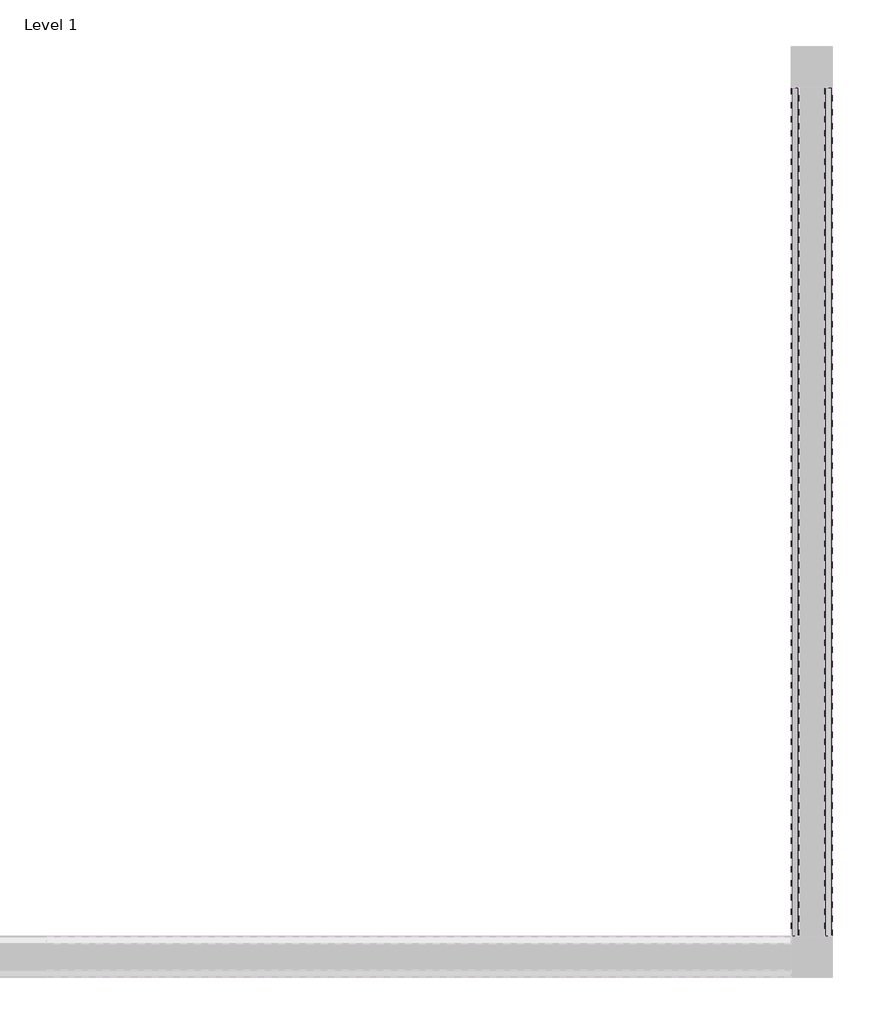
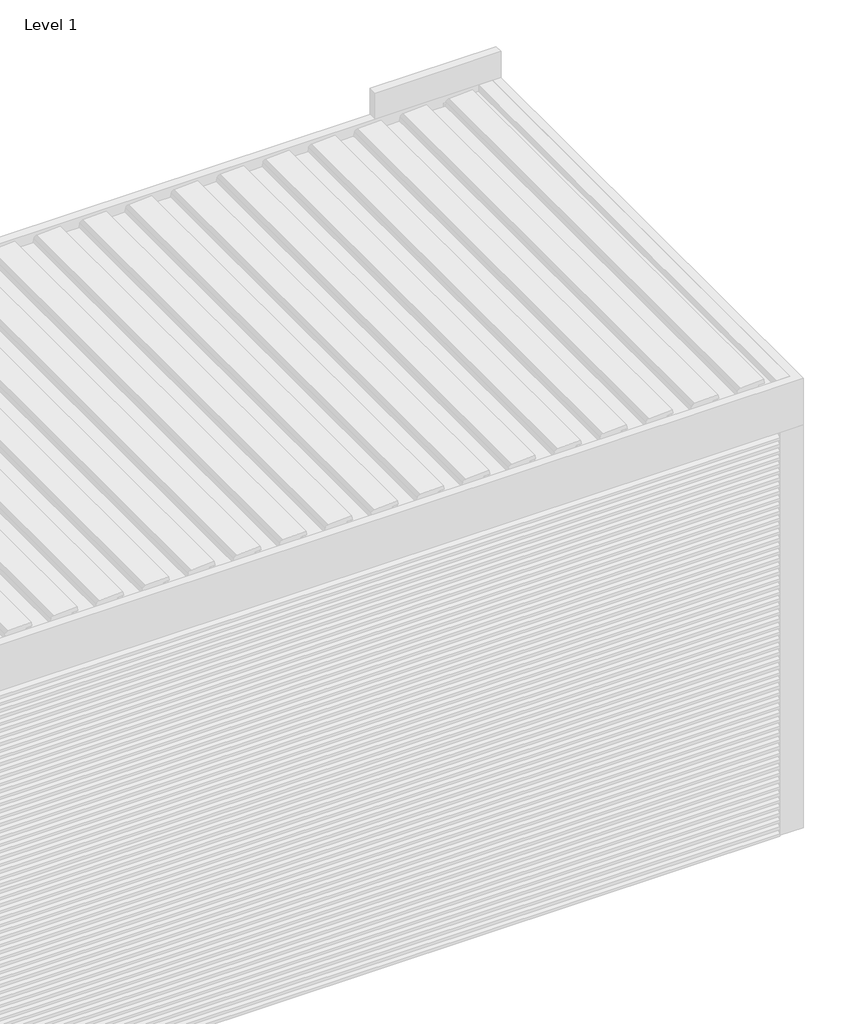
# One storey, part 43 of 47: 85 proxies.
"""IFC4 building model written with IfcOpenShell, lengths in millimetres."""

from ifc_helpers import new_model, si_unit, frame, origin, place, context, project, spatial, polyline, outline, extrude, element, save

model = new_model("IFC4")

# Units and contexts
model_context = context("Model", 3, world=origin())
ifc_project = project(units=[si_unit("LENGTHUNIT", "METRE", prefix="MILLI")], contexts=[model_context])

# Site, building, storey
site = spatial("IfcSite", under=ifc_project)
building = spatial("IfcBuilding", under=site)
storey = spatial("IfcBuildingStorey", under=building, Name="Level 1", Elevation=0.0)

# Proxies
placement = place(None, origin())
element("IfcBuildingElementProxy", 1, Name="Wall Sweeps", at=placement, inside=storey, context=model_context, shape_type="SweptSolid", body=[
    extrude(outline(polyline([(476.0, 209062.4238385), (462.5, 209062.4238385), (463.2216933, 209063.6738385), (475.2782281, 209063.6738385), (486.3345698, 209082.8238385), (500.0, 209082.8238385), (500.0, 209081.5738385), (487.0562577, 209081.5738385), (476.0, 209062.4238385)])), frame((0.0, 39632.1593685, 0.0), z_axis=(0.0, 1.0, 0.0), x_axis=(0.0, 0.0, 1.0)), (0.0, 0.0, 1.0), 2280.0),
])
element("IfcBuildingElementProxy", 2, Name="Wall Sweeps", at=placement, inside=storey, context=model_context, shape_type="SweptSolid", body=[
    extrude(outline(polyline([(508.8, 209172.4238385), (519.8562577, 209153.2738385), (532.8, 209153.2738385), (532.8, 209152.0238385), (519.1345698, 209152.0238385), (508.0782281, 209171.1738385), (496.0216933, 209171.1738385), (495.3, 209172.4238385), (508.8, 209172.4238385)])), frame((0.0, 39632.1593685, 0.0), z_axis=(0.0, 1.0, 0.0), x_axis=(0.0, 0.0, 1.0)), (0.0, 0.0, 1.0), 2280.0),
])
element("IfcBuildingElementProxy", 3, Name="Wall Sweeps", at=placement, inside=storey, context=model_context, shape_type="SweptSolid", body=[
    extrude(outline(polyline([(509.3, 209062.4238385), (495.8, 209062.4238385), (496.5216933, 209063.6738385), (508.5782281, 209063.6738385), (519.6345698, 209082.8238385), (533.3, 209082.8238385), (533.3, 209081.5738385), (520.3562577, 209081.5738385), (509.3, 209062.4238385)])), frame((0.0, 39632.1593685, 0.0), z_axis=(0.0, 1.0, 0.0), x_axis=(0.0, 0.0, 1.0)), (0.0, 0.0, 1.0), 2280.0),
])
element("IfcBuildingElementProxy", 4, Name="Wall Sweeps", at=placement, inside=storey, context=model_context, shape_type="SweptSolid", body=[
    extrude(outline(polyline([(542.1, 209172.4238385), (553.1562577, 209153.2738385), (566.1, 209153.2738385), (566.1, 209152.0238385), (552.4345698, 209152.0238385), (541.3782281, 209171.1738385), (529.3216933, 209171.1738385), (528.6, 209172.4238385), (542.1, 209172.4238385)])), frame((0.0, 39632.1593685, 0.0), z_axis=(0.0, 1.0, 0.0), x_axis=(0.0, 0.0, 1.0)), (0.0, 0.0, 1.0), 2280.0),
])
element("IfcBuildingElementProxy", 5, Name="Wall Sweeps", at=placement, inside=storey, context=model_context, shape_type="SweptSolid", body=[
    extrude(outline(polyline([(542.6, 209062.4238385), (529.1, 209062.4238385), (529.8216933, 209063.6738385), (541.8782281, 209063.6738385), (552.9345698, 209082.8238385), (566.6, 209082.8238385), (566.6, 209081.5738385), (553.6562577, 209081.5738385), (542.6, 209062.4238385)])), frame((0.0, 39632.1593685, 0.0), z_axis=(0.0, 1.0, 0.0), x_axis=(0.0, 0.0, 1.0)), (0.0, 0.0, 1.0), 2280.0),
])
element("IfcBuildingElementProxy", 6, Name="Wall Sweeps", at=placement, inside=storey, context=model_context, shape_type="SweptSolid", body=[
    extrude(outline(polyline([(575.4, 209172.4238385), (586.4562577, 209153.2738385), (599.4, 209153.2738385), (599.4, 209152.0238385), (585.7345698, 209152.0238385), (574.6782281, 209171.1738385), (562.6216933, 209171.1738385), (561.9, 209172.4238385), (575.4, 209172.4238385)])), frame((0.0, 39632.1593685, 0.0), z_axis=(0.0, 1.0, 0.0), x_axis=(0.0, 0.0, 1.0)), (0.0, 0.0, 1.0), 2280.0),
])
element("IfcBuildingElementProxy", 7, Name="Wall Sweeps", at=placement, inside=storey, context=model_context, shape_type="SweptSolid", body=[
    extrude(outline(polyline([(575.9, 209062.4238385), (562.4, 209062.4238385), (563.1216933, 209063.6738385), (575.1782281, 209063.6738385), (586.2345698, 209082.8238385), (599.9, 209082.8238385), (599.9, 209081.5738385), (586.9562577, 209081.5738385), (575.9, 209062.4238385)])), frame((0.0, 39632.1593685, 0.0), z_axis=(0.0, 1.0, 0.0), x_axis=(0.0, 0.0, 1.0)), (0.0, 0.0, 1.0), 2280.0),
])
element("IfcBuildingElementProxy", 8, Name="Wall Sweeps", at=placement, inside=storey, context=model_context, shape_type="SweptSolid", body=[
    extrude(outline(polyline([(608.7, 209172.4238385), (619.7562577, 209153.2738385), (632.7, 209153.2738385), (632.7, 209152.0238385), (619.0345698, 209152.0238385), (607.9782281, 209171.1738385), (595.9216933, 209171.1738385), (595.2, 209172.4238385), (608.7, 209172.4238385)])), frame((0.0, 39632.1593685, 0.0), z_axis=(0.0, 1.0, 0.0), x_axis=(0.0, 0.0, 1.0)), (0.0, 0.0, 1.0), 2280.0),
])
element("IfcBuildingElementProxy", 9, Name="Wall Sweeps", at=placement, inside=storey, context=model_context, shape_type="SweptSolid", body=[
    extrude(outline(polyline([(609.3, 209062.4238385), (595.8, 209062.4238385), (596.5216933, 209063.6738385), (608.5782281, 209063.6738385), (619.6345698, 209082.8238385), (633.3, 209082.8238385), (633.3, 209081.5738385), (620.3562577, 209081.5738385), (609.3, 209062.4238385)])), frame((0.0, 39632.1593685, 0.0), z_axis=(0.0, 1.0, 0.0), x_axis=(0.0, 0.0, 1.0)), (0.0, 0.0, 1.0), 2280.0),
])
element("IfcBuildingElementProxy", 10, Name="Wall Sweeps", at=placement, inside=storey, context=model_context, shape_type="SweptSolid", body=[
    extrude(outline(polyline([(642.0, 209172.4238385), (653.0562577, 209153.2738385), (666.0, 209153.2738385), (666.0, 209152.0238385), (652.3345698, 209152.0238385), (641.2782281, 209171.1738385), (629.2216933, 209171.1738385), (628.5, 209172.4238385), (642.0, 209172.4238385)])), frame((0.0, 39632.1593685, 0.0), z_axis=(0.0, 1.0, 0.0), x_axis=(0.0, 0.0, 1.0)), (0.0, 0.0, 1.0), 2280.0),
])
element("IfcBuildingElementProxy", 11, Name="Wall Sweeps", at=placement, inside=storey, context=model_context, shape_type="SweptSolid", body=[
    extrude(outline(polyline([(42.6, 209172.4238385), (53.6562577, 209153.2738385), (66.6, 209153.2738385), (66.6, 209152.0238385), (52.9345698, 209152.0238385), (41.8782281, 209171.1738385), (29.8216933, 209171.1738385), (29.1, 209172.4238385), (42.6, 209172.4238385)])), frame((0.0, 39632.1593685, 0.0), z_axis=(0.0, 1.0, 0.0), x_axis=(0.0, 0.0, 1.0)), (0.0, 0.0, 1.0), 2280.0),
])
element("IfcBuildingElementProxy", 12, Name="Wall Sweeps", at=placement, inside=storey, context=model_context, shape_type="SweptSolid", body=[
    extrude(outline(polyline([(642.6, 209062.4238385), (629.1, 209062.4238385), (629.8216933, 209063.6738385), (641.8782281, 209063.6738385), (652.9345698, 209082.8238385), (666.6, 209082.8238385), (666.6, 209081.5738385), (653.6562577, 209081.5738385), (642.6, 209062.4238385)])), frame((0.0, 39632.1593685, 0.0), z_axis=(0.0, 1.0, 0.0), x_axis=(0.0, 0.0, 1.0)), (0.0, 0.0, 1.0), 2280.0),
])
element("IfcBuildingElementProxy", 13, Name="Wall Sweeps", at=placement, inside=storey, context=model_context, shape_type="SweptSolid", body=[
    extrude(outline(polyline([(42.7, 209062.4238385), (29.2, 209062.4238385), (29.9216933, 209063.6738385), (41.9782281, 209063.6738385), (53.0345698, 209082.8238385), (66.7, 209082.8238385), (66.7, 209081.5738385), (53.7562577, 209081.5738385), (42.7, 209062.4238385)])), frame((0.0, 39632.1593685, 0.0), z_axis=(0.0, 1.0, 0.0), x_axis=(0.0, 0.0, 1.0)), (0.0, 0.0, 1.0), 2280.0),
])
element("IfcBuildingElementProxy", 14, Name="Wall Sweeps", at=placement, inside=storey, context=model_context, shape_type="SweptSolid", body=[
    extrude(outline(polyline([(675.3, 209172.4238385), (686.3562577, 209153.2738385), (699.3, 209153.2738385), (699.3, 209152.0238385), (685.6345698, 209152.0238385), (674.5782281, 209171.1738385), (662.5216933, 209171.1738385), (661.8, 209172.4238385), (675.3, 209172.4238385)])), frame((0.0, 39632.1593685, 0.0), z_axis=(0.0, 1.0, 0.0), x_axis=(0.0, 0.0, 1.0)), (0.0, 0.0, 1.0), 2280.0),
])
element("IfcBuildingElementProxy", 15, Name="Wall Sweeps", at=placement, inside=storey, context=model_context, shape_type="SweptSolid", body=[
    extrude(outline(polyline([(675.9, 209062.4238385), (662.4, 209062.4238385), (663.1216933, 209063.6738385), (675.1782281, 209063.6738385), (686.2345698, 209082.8238385), (699.9, 209082.8238385), (699.9, 209081.5738385), (686.9562577, 209081.5738385), (675.9, 209062.4238385)])), frame((0.0, 39632.1593685, 0.0), z_axis=(0.0, 1.0, 0.0), x_axis=(0.0, 0.0, 1.0)), (0.0, 0.0, 1.0), 2280.0),
])
element("IfcBuildingElementProxy", 16, Name="Wall Sweeps", at=placement, inside=storey, context=model_context, shape_type="SweptSolid", body=[
    extrude(outline(polyline([(708.6, 209172.4238385), (719.6562577, 209153.2738385), (732.6, 209153.2738385), (732.6, 209152.0238385), (718.9345698, 209152.0238385), (707.8782281, 209171.1738385), (695.8216933, 209171.1738385), (695.1, 209172.4238385), (708.6, 209172.4238385)])), frame((0.0, 39632.1593685, 0.0), z_axis=(0.0, 1.0, 0.0), x_axis=(0.0, 0.0, 1.0)), (0.0, 0.0, 1.0), 2280.0),
])
element("IfcBuildingElementProxy", 17, Name="Wall Sweeps", at=placement, inside=storey, context=model_context, shape_type="SweptSolid", body=[
    extrude(outline(polyline([(709.3, 209062.4238385), (695.8, 209062.4238385), (696.5216933, 209063.6738385), (708.5782281, 209063.6738385), (719.6345698, 209082.8238385), (733.3, 209082.8238385), (733.3, 209081.5738385), (720.3562577, 209081.5738385), (709.3, 209062.4238385)])), frame((0.0, 39632.1593685, 0.0), z_axis=(0.0, 1.0, 0.0), x_axis=(0.0, 0.0, 1.0)), (0.0, 0.0, 1.0), 2280.0),
])
element("IfcBuildingElementProxy", 18, Name="Wall Sweeps", at=placement, inside=storey, context=model_context, shape_type="SweptSolid", body=[
    extrude(outline(polyline([(742.6, 209062.4238385), (729.1, 209062.4238385), (729.8216933, 209063.6738385), (741.8782281, 209063.6738385), (752.9345698, 209082.8238385), (766.6, 209082.8238385), (766.6, 209081.5738385), (753.6562577, 209081.5738385), (742.6, 209062.4238385)])), frame((0.0, 39632.1593685, 0.0), z_axis=(0.0, 1.0, 0.0), x_axis=(0.0, 0.0, 1.0)), (0.0, 0.0, 1.0), 2280.0),
])
element("IfcBuildingElementProxy", 19, Name="Wall Sweeps", at=placement, inside=storey, context=model_context, shape_type="SweptSolid", body=[
    extrude(outline(polyline([(775.2, 209172.4238385), (786.2562577, 209153.2738385), (799.2, 209153.2738385), (799.2, 209152.0238385), (785.5345698, 209152.0238385), (774.4782281, 209171.1738385), (762.4216933, 209171.1738385), (761.7, 209172.4238385), (775.2, 209172.4238385)])), frame((0.0, 39632.1593685, 0.0), z_axis=(0.0, 1.0, 0.0), x_axis=(0.0, 0.0, 1.0)), (0.0, 0.0, 1.0), 2280.0),
])
element("IfcBuildingElementProxy", 20, Name="Wall Sweeps", at=placement, inside=storey, context=model_context, shape_type="SweptSolid", body=[
    extrude(outline(polyline([(775.9, 209062.4238385), (762.4, 209062.4238385), (763.1216933, 209063.6738385), (775.1782281, 209063.6738385), (786.2345698, 209082.8238385), (799.9, 209082.8238385), (799.9, 209081.5738385), (786.9562577, 209081.5738385), (775.9, 209062.4238385)])), frame((0.0, 39632.1593685, 0.0), z_axis=(0.0, 1.0, 0.0), x_axis=(0.0, 0.0, 1.0)), (0.0, 0.0, 1.0), 2280.0),
])
element("IfcBuildingElementProxy", 21, Name="Wall Sweeps", at=placement, inside=storey, context=model_context, shape_type="SweptSolid", body=[
    extrude(outline(polyline([(809.3, 209062.4238385), (795.8, 209062.4238385), (796.5216933, 209063.6738385), (808.5782281, 209063.6738385), (819.6345698, 209082.8238385), (833.3, 209082.8238385), (833.3, 209081.5738385), (820.3562577, 209081.5738385), (809.3, 209062.4238385)])), frame((0.0, 39632.1593685, 0.0), z_axis=(0.0, 1.0, 0.0), x_axis=(0.0, 0.0, 1.0)), (0.0, 0.0, 1.0), 2280.0),
])
element("IfcBuildingElementProxy", 22, Name="Wall Sweeps", at=placement, inside=storey, context=model_context, shape_type="SweptSolid", body=[
    extrude(outline(polyline([(841.8, 209172.4238385), (852.8562577, 209153.2738385), (865.8, 209153.2738385), (865.8, 209152.0238385), (852.1345698, 209152.0238385), (841.0782281, 209171.1738385), (829.0216933, 209171.1738385), (828.3, 209172.4238385), (841.8, 209172.4238385)])), frame((0.0, 39632.1593685, 0.0), z_axis=(0.0, 1.0, 0.0), x_axis=(0.0, 0.0, 1.0)), (0.0, 0.0, 1.0), 2280.0),
])
element("IfcBuildingElementProxy", 23, Name="Wall Sweeps", at=placement, inside=storey, context=model_context, shape_type="SweptSolid", body=[
    extrude(outline(polyline([(842.6, 209062.4238385), (829.1, 209062.4238385), (829.8216933, 209063.6738385), (841.8782281, 209063.6738385), (852.9345698, 209082.8238385), (866.6, 209082.8238385), (866.6, 209081.5738385), (853.6562577, 209081.5738385), (842.6, 209062.4238385)])), frame((0.0, 39632.1593685, 0.0), z_axis=(0.0, 1.0, 0.0), x_axis=(0.0, 0.0, 1.0)), (0.0, 0.0, 1.0), 2280.0),
])
element("IfcBuildingElementProxy", 24, Name="Wall Sweeps", at=placement, inside=storey, context=model_context, shape_type="SweptSolid", body=[
    extrude(outline(polyline([(875.9, 209062.4238385), (862.4, 209062.4238385), (863.1216933, 209063.6738385), (875.1782281, 209063.6738385), (886.2345698, 209082.8238385), (899.9, 209082.8238385), (899.9, 209081.5738385), (886.9562577, 209081.5738385), (875.9, 209062.4238385)])), frame((0.0, 39632.1593685, 0.0), z_axis=(0.0, 1.0, 0.0), x_axis=(0.0, 0.0, 1.0)), (0.0, 0.0, 1.0), 2280.0),
])
element("IfcBuildingElementProxy", 25, Name="Wall Sweeps", at=placement, inside=storey, context=model_context, shape_type="SweptSolid", body=[
    extrude(outline(polyline([(908.4, 209172.4238385), (919.4562577, 209153.2738385), (932.4, 209153.2738385), (932.4, 209152.0238385), (918.7345698, 209152.0238385), (907.6782281, 209171.1738385), (895.6216933, 209171.1738385), (894.9, 209172.4238385), (908.4, 209172.4238385)])), frame((0.0, 39632.1593685, 0.0), z_axis=(0.0, 1.0, 0.0), x_axis=(0.0, 0.0, 1.0)), (0.0, 0.0, 1.0), 2280.0),
])
element("IfcBuildingElementProxy", 26, Name="Wall Sweeps", at=placement, inside=storey, context=model_context, shape_type="SweptSolid", body=[
    extrude(outline(polyline([(909.2, 209062.4238385), (895.7, 209062.4238385), (896.4216933, 209063.6738385), (908.4782281, 209063.6738385), (919.5345698, 209082.8238385), (933.2, 209082.8238385), (933.2, 209081.5738385), (920.2562577, 209081.5738385), (909.2, 209062.4238385)])), frame((0.0, 39632.1593685, 0.0), z_axis=(0.0, 1.0, 0.0), x_axis=(0.0, 0.0, 1.0)), (0.0, 0.0, 1.0), 2280.0),
])
element("IfcBuildingElementProxy", 27, Name="Wall Sweeps", at=placement, inside=storey, context=model_context, shape_type="SweptSolid", body=[
    extrude(outline(polyline([(941.7, 209172.4238385), (952.7562577, 209153.2738385), (965.7, 209153.2738385), (965.7, 209152.0238385), (952.0345698, 209152.0238385), (940.9782281, 209171.1738385), (928.9216933, 209171.1738385), (928.2, 209172.4238385), (941.7, 209172.4238385)])), frame((0.0, 39632.1593685, 0.0), z_axis=(0.0, 1.0, 0.0), x_axis=(0.0, 0.0, 1.0)), (0.0, 0.0, 1.0), 2280.0),
])
element("IfcBuildingElementProxy", 28, Name="Wall Sweeps", at=placement, inside=storey, context=model_context, shape_type="SweptSolid", body=[
    extrude(outline(polyline([(942.6, 209062.4238385), (929.1, 209062.4238385), (929.8216933, 209063.6738385), (941.8782281, 209063.6738385), (952.9345698, 209082.8238385), (966.6, 209082.8238385), (966.6, 209081.5738385), (953.6562577, 209081.5738385), (942.6, 209062.4238385)])), frame((0.0, 39632.1593685, 0.0), z_axis=(0.0, 1.0, 0.0), x_axis=(0.0, 0.0, 1.0)), (0.0, 0.0, 1.0), 2280.0),
])
element("IfcBuildingElementProxy", 29, Name="Wall Sweeps", at=placement, inside=storey, context=model_context, shape_type="SweptSolid", body=[
    extrude(outline(polyline([(975.0, 209172.4238385), (986.0562577, 209153.2738385), (999.0, 209153.2738385), (999.0, 209152.0238385), (985.3345698, 209152.0238385), (974.2782281, 209171.1738385), (962.2216933, 209171.1738385), (961.5, 209172.4238385), (975.0, 209172.4238385)])), frame((0.0, 39632.1593685, 0.0), z_axis=(0.0, 1.0, 0.0), x_axis=(0.0, 0.0, 1.0)), (0.0, 0.0, 1.0), 2280.0),
])
element("IfcBuildingElementProxy", 30, Name="Wall Sweeps", at=placement, inside=storey, context=model_context, shape_type="SweptSolid", body=[
    extrude(outline(polyline([(975.9, 209062.4238385), (962.4, 209062.4238385), (963.1216933, 209063.6738385), (975.1782281, 209063.6738385), (986.2345698, 209082.8238385), (999.9, 209082.8238385), (999.9, 209081.5738385), (986.9562577, 209081.5738385), (975.9, 209062.4238385)])), frame((0.0, 39632.1593685, 0.0), z_axis=(0.0, 1.0, 0.0), x_axis=(0.0, 0.0, 1.0)), (0.0, 0.0, 1.0), 2280.0),
])
element("IfcBuildingElementProxy", 31, Name="Wall Sweeps", at=placement, inside=storey, context=model_context, shape_type="SweptSolid", body=[
    extrude(outline(polyline([(76.0, 209172.4238385), (87.0562577, 209153.2738385), (100.0, 209153.2738385), (100.0, 209152.0238385), (86.3345698, 209152.0238385), (75.2782281, 209171.1738385), (63.2216933, 209171.1738385), (62.5, 209172.4238385), (76.0, 209172.4238385)])), frame((0.0, 39632.1593685, 0.0), z_axis=(0.0, 1.0, 0.0), x_axis=(0.0, 0.0, 1.0)), (0.0, 0.0, 1.0), 2280.0),
])
element("IfcBuildingElementProxy", 32, Name="Wall Sweeps", at=placement, inside=storey, context=model_context, shape_type="SweptSolid", body=[
    extrude(outline(polyline([(76.0, 209062.4238385), (62.5, 209062.4238385), (63.2216933, 209063.6738385), (75.2782281, 209063.6738385), (86.3345698, 209082.8238385), (100.0, 209082.8238385), (100.0, 209081.5738385), (87.0562577, 209081.5738385), (76.0, 209062.4238385)])), frame((0.0, 39632.1593685, 0.0), z_axis=(0.0, 1.0, 0.0), x_axis=(0.0, 0.0, 1.0)), (0.0, 0.0, 1.0), 2280.0),
])
element("IfcBuildingElementProxy", 33, Name="Wall Sweeps", at=placement, inside=storey, context=model_context, shape_type="SweptSolid", body=[
    extrude(outline(polyline([(1008.3, 209172.4238385), (1019.3562577, 209153.2738385), (1032.3, 209153.2738385), (1032.3, 209152.0238385), (1018.6345698, 209152.0238385), (1007.5782281, 209171.1738385), (995.5216933, 209171.1738385), (994.8, 209172.4238385), (1008.3, 209172.4238385)])), frame((0.0, 39632.1593685, 0.0), z_axis=(0.0, 1.0, 0.0), x_axis=(0.0, 0.0, 1.0)), (0.0, 0.0, 1.0), 2280.0),
])
element("IfcBuildingElementProxy", 34, Name="Wall Sweeps", at=placement, inside=storey, context=model_context, shape_type="SweptSolid", body=[
    extrude(outline(polyline([(1009.2, 209062.4238385), (995.7, 209062.4238385), (996.4216933, 209063.6738385), (1008.4782281, 209063.6738385), (1019.5345698, 209082.8238385), (1033.2, 209082.8238385), (1033.2, 209081.5738385), (1020.2562577, 209081.5738385), (1009.2, 209062.4238385)])), frame((0.0, 39632.1593685, 0.0), z_axis=(0.0, 1.0, 0.0), x_axis=(0.0, 0.0, 1.0)), (0.0, 0.0, 1.0), 2280.0),
])
element("IfcBuildingElementProxy", 35, Name="Wall Sweeps", at=placement, inside=storey, context=model_context, shape_type="SweptSolid", body=[
    extrude(outline(polyline([(1041.6, 209172.4238385), (1052.6562577, 209153.2738385), (1065.6, 209153.2738385), (1065.6, 209152.0238385), (1051.9345698, 209152.0238385), (1040.8782281, 209171.1738385), (1028.8216933, 209171.1738385), (1028.1, 209172.4238385), (1041.6, 209172.4238385)])), frame((0.0, 39632.1593685, 0.0), z_axis=(0.0, 1.0, 0.0), x_axis=(0.0, 0.0, 1.0)), (0.0, 0.0, 1.0), 2280.0),
])
element("IfcBuildingElementProxy", 36, Name="Wall Sweeps", at=placement, inside=storey, context=model_context, shape_type="SweptSolid", body=[
    extrude(outline(polyline([(1042.6, 209062.4238385), (1029.1, 209062.4238385), (1029.8216933, 209063.6738385), (1041.8782281, 209063.6738385), (1052.9345698, 209082.8238385), (1066.6, 209082.8238385), (1066.6, 209081.5738385), (1053.6562577, 209081.5738385), (1042.6, 209062.4238385)])), frame((0.0, 39632.1593685, 0.0), z_axis=(0.0, 1.0, 0.0), x_axis=(0.0, 0.0, 1.0)), (0.0, 0.0, 1.0), 2280.0),
])
element("IfcBuildingElementProxy", 37, Name="Wall Sweeps", at=placement, inside=storey, context=model_context, shape_type="SweptSolid", body=[
    extrude(outline(polyline([(1074.9, 209172.4238385), (1085.9562577, 209153.2738385), (1098.9, 209153.2738385), (1098.9, 209152.0238385), (1085.2345698, 209152.0238385), (1074.1782281, 209171.1738385), (1062.1216933, 209171.1738385), (1061.4, 209172.4238385), (1074.9, 209172.4238385)])), frame((0.0, 39632.1593685, 0.0), z_axis=(0.0, 1.0, 0.0), x_axis=(0.0, 0.0, 1.0)), (0.0, 0.0, 1.0), 2280.0),
])
element("IfcBuildingElementProxy", 38, Name="Wall Sweeps", at=placement, inside=storey, context=model_context, shape_type="SweptSolid", body=[
    extrude(outline(polyline([(1108.2, 209172.4238385), (1119.2562577, 209153.2738385), (1132.2, 209153.2738385), (1132.2, 209152.0238385), (1118.5345698, 209152.0238385), (1107.4782281, 209171.1738385), (1095.4216933, 209171.1738385), (1094.7, 209172.4238385), (1108.2, 209172.4238385)])), frame((0.0, 39632.1593685, 0.0), z_axis=(0.0, 1.0, 0.0), x_axis=(0.0, 0.0, 1.0)), (0.0, 0.0, 1.0), 2280.0),
])
element("IfcBuildingElementProxy", 39, Name="Wall Sweeps", at=placement, inside=storey, context=model_context, shape_type="SweptSolid", body=[
    extrude(outline(polyline([(1109.2, 209062.4238385), (1095.7, 209062.4238385), (1096.4216933, 209063.6738385), (1108.4782281, 209063.6738385), (1119.5345698, 209082.8238385), (1133.2, 209082.8238385), (1133.2, 209081.5738385), (1120.2562577, 209081.5738385), (1109.2, 209062.4238385)])), frame((0.0, 39632.1593685, 0.0), z_axis=(0.0, 1.0, 0.0), x_axis=(0.0, 0.0, 1.0)), (0.0, 0.0, 1.0), 2280.0),
])
element("IfcBuildingElementProxy", 40, Name="Wall Sweeps", at=placement, inside=storey, context=model_context, shape_type="SweptSolid", body=[
    extrude(outline(polyline([(1141.5, 209172.4238385), (1152.5562577, 209153.2738385), (1165.5, 209153.2738385), (1165.5, 209152.0238385), (1151.8345698, 209152.0238385), (1140.7782281, 209171.1738385), (1128.7216933, 209171.1738385), (1128.0, 209172.4238385), (1141.5, 209172.4238385)])), frame((0.0, 39632.1593685, 0.0), z_axis=(0.0, 1.0, 0.0), x_axis=(0.0, 0.0, 1.0)), (0.0, 0.0, 1.0), 2280.0),
])
element("IfcBuildingElementProxy", 41, Name="Wall Sweeps", at=placement, inside=storey, context=model_context, shape_type="SweptSolid", body=[
    extrude(outline(polyline([(1142.6, 209062.4238385), (1129.1, 209062.4238385), (1129.8216933, 209063.6738385), (1141.8782281, 209063.6738385), (1152.9345698, 209082.8238385), (1166.6, 209082.8238385), (1166.6, 209081.5738385), (1153.6562577, 209081.5738385), (1142.6, 209062.4238385)])), frame((0.0, 39632.1593685, 0.0), z_axis=(0.0, 1.0, 0.0), x_axis=(0.0, 0.0, 1.0)), (0.0, 0.0, 1.0), 2280.0),
])
element("IfcBuildingElementProxy", 42, Name="Wall Sweeps", at=placement, inside=storey, context=model_context, shape_type="SweptSolid", body=[
    extrude(outline(polyline([(1174.8, 209172.4238385), (1185.8562577, 209153.2738385), (1198.8, 209153.2738385), (1198.8, 209152.0238385), (1185.1345698, 209152.0238385), (1174.0782281, 209171.1738385), (1162.0216933, 209171.1738385), (1161.3, 209172.4238385), (1174.8, 209172.4238385)])), frame((0.0, 39632.1593685, 0.0), z_axis=(0.0, 1.0, 0.0), x_axis=(0.0, 0.0, 1.0)), (0.0, 0.0, 1.0), 2280.0),
])
element("IfcBuildingElementProxy", 43, Name="Wall Sweeps", at=placement, inside=storey, context=model_context, shape_type="SweptSolid", body=[
    extrude(outline(polyline([(1175.9, 209062.4238385), (1162.4, 209062.4238385), (1163.1216933, 209063.6738385), (1175.1782281, 209063.6738385), (1186.2345698, 209082.8238385), (1199.9, 209082.8238385), (1199.9, 209081.5738385), (1186.9562577, 209081.5738385), (1175.9, 209062.4238385)])), frame((0.0, 39632.1593685, 0.0), z_axis=(0.0, 1.0, 0.0), x_axis=(0.0, 0.0, 1.0)), (0.0, 0.0, 1.0), 2280.0),
])
element("IfcBuildingElementProxy", 44, Name="Wall Sweeps", at=placement, inside=storey, context=model_context, shape_type="SweptSolid", body=[
    extrude(outline(polyline([(1208.1, 209172.4238385), (1219.1562577, 209153.2738385), (1232.1, 209153.2738385), (1232.1, 209152.0238385), (1218.4345698, 209152.0238385), (1207.3782281, 209171.1738385), (1195.3216933, 209171.1738385), (1194.6, 209172.4238385), (1208.1, 209172.4238385)])), frame((0.0, 39632.1593685, 0.0), z_axis=(0.0, 1.0, 0.0), x_axis=(0.0, 0.0, 1.0)), (0.0, 0.0, 1.0), 2280.0),
])
element("IfcBuildingElementProxy", 45, Name="Wall Sweeps", at=placement, inside=storey, context=model_context, shape_type="SweptSolid", body=[
    extrude(outline(polyline([(1209.2, 209062.4238385), (1195.7, 209062.4238385), (1196.4216933, 209063.6738385), (1208.4782281, 209063.6738385), (1219.5345698, 209082.8238385), (1233.2, 209082.8238385), (1233.2, 209081.5738385), (1220.2562577, 209081.5738385), (1209.2, 209062.4238385)])), frame((0.0, 39632.1593685, 0.0), z_axis=(0.0, 1.0, 0.0), x_axis=(0.0, 0.0, 1.0)), (0.0, 0.0, 1.0), 2280.0),
])
element("IfcBuildingElementProxy", 46, Name="Wall Sweeps", at=placement, inside=storey, context=model_context, shape_type="SweptSolid", body=[
    extrude(outline(polyline([(1241.4, 209172.4238385), (1252.4562577, 209153.2738385), (1265.4, 209153.2738385), (1265.4, 209152.0238385), (1251.7345698, 209152.0238385), (1240.6782281, 209171.1738385), (1228.6216933, 209171.1738385), (1227.9, 209172.4238385), (1241.4, 209172.4238385)])), frame((0.0, 39632.1593685, 0.0), z_axis=(0.0, 1.0, 0.0), x_axis=(0.0, 0.0, 1.0)), (0.0, 0.0, 1.0), 2280.0),
])
element("IfcBuildingElementProxy", 47, Name="Wall Sweeps", at=placement, inside=storey, context=model_context, shape_type="SweptSolid", body=[
    extrude(outline(polyline([(1242.5, 209062.4238385), (1229.0, 209062.4238385), (1229.7216933, 209063.6738385), (1241.7782281, 209063.6738385), (1252.8345698, 209082.8238385), (1266.5, 209082.8238385), (1266.5, 209081.5738385), (1253.5562577, 209081.5738385), (1242.5, 209062.4238385)])), frame((0.0, 39632.1593685, 0.0), z_axis=(0.0, 1.0, 0.0), x_axis=(0.0, 0.0, 1.0)), (0.0, 0.0, 1.0), 2280.0),
])
element("IfcBuildingElementProxy", 48, Name="Wall Sweeps", at=placement, inside=storey, context=model_context, shape_type="SweptSolid", body=[
    extrude(outline(polyline([(1274.7, 209172.4238385), (1285.7562577, 209153.2738385), (1298.7, 209153.2738385), (1298.7, 209152.0238385), (1285.0345698, 209152.0238385), (1273.9782281, 209171.1738385), (1261.9216933, 209171.1738385), (1261.2, 209172.4238385), (1274.7, 209172.4238385)])), frame((0.0, 39632.1593685, 0.0), z_axis=(0.0, 1.0, 0.0), x_axis=(0.0, 0.0, 1.0)), (0.0, 0.0, 1.0), 2280.0),
])
element("IfcBuildingElementProxy", 49, Name="Wall Sweeps", at=placement, inside=storey, context=model_context, shape_type="SweptSolid", body=[
    extrude(outline(polyline([(1275.9, 209062.4238385), (1262.4, 209062.4238385), (1263.1216933, 209063.6738385), (1275.1782281, 209063.6738385), (1286.2345698, 209082.8238385), (1299.9, 209082.8238385), (1299.9, 209081.5738385), (1286.9562577, 209081.5738385), (1275.9, 209062.4238385)])), frame((0.0, 39632.1593685, 0.0), z_axis=(0.0, 1.0, 0.0), x_axis=(0.0, 0.0, 1.0)), (0.0, 0.0, 1.0), 2280.0),
])
element("IfcBuildingElementProxy", 50, Name="Wall Sweeps", at=placement, inside=storey, context=model_context, shape_type="SweptSolid", body=[
    extrude(outline(polyline([(1308.0, 209172.4238385), (1319.0562577, 209153.2738385), (1332.0, 209153.2738385), (1332.0, 209152.0238385), (1318.3345698, 209152.0238385), (1307.2782281, 209171.1738385), (1295.2216933, 209171.1738385), (1294.5, 209172.4238385), (1308.0, 209172.4238385)])), frame((0.0, 39632.1593685, 0.0), z_axis=(0.0, 1.0, 0.0), x_axis=(0.0, 0.0, 1.0)), (0.0, 0.0, 1.0), 2280.0),
])
element("IfcBuildingElementProxy", 51, Name="Wall Sweeps", at=placement, inside=storey, context=model_context, shape_type="SweptSolid", body=[
    extrude(outline(polyline([(109.2, 209172.4238385), (120.2562577, 209153.2738385), (133.2, 209153.2738385), (133.2, 209152.0238385), (119.5345698, 209152.0238385), (108.4782281, 209171.1738385), (96.4216933, 209171.1738385), (95.7, 209172.4238385), (109.2, 209172.4238385)])), frame((0.0, 39632.1593685, 0.0), z_axis=(0.0, 1.0, 0.0), x_axis=(0.0, 0.0, 1.0)), (0.0, 0.0, 1.0), 2280.0),
])
element("IfcBuildingElementProxy", 52, Name="Wall Sweeps", at=placement, inside=storey, context=model_context, shape_type="SweptSolid", body=[
    extrude(outline(polyline([(109.3, 209062.4238385), (95.8, 209062.4238385), (96.5216933, 209063.6738385), (108.5782281, 209063.6738385), (119.6345698, 209082.8238385), (133.3, 209082.8238385), (133.3, 209081.5738385), (120.3562577, 209081.5738385), (109.3, 209062.4238385)])), frame((0.0, 39632.1593685, 0.0), z_axis=(0.0, 1.0, 0.0), x_axis=(0.0, 0.0, 1.0)), (0.0, 0.0, 1.0), 2280.0),
])
element("IfcBuildingElementProxy", 53, Name="Wall Sweeps", at=placement, inside=storey, context=model_context, shape_type="SweptSolid", body=[
    extrude(outline(polyline([(1309.2, 209062.4238385), (1295.7, 209062.4238385), (1296.4216933, 209063.6738385), (1308.4782281, 209063.6738385), (1319.5345698, 209082.8238385), (1333.2, 209082.8238385), (1333.2, 209081.5738385), (1320.2562577, 209081.5738385), (1309.2, 209062.4238385)])), frame((0.0, 39632.1593685, 0.0), z_axis=(0.0, 1.0, 0.0), x_axis=(0.0, 0.0, 1.0)), (0.0, 0.0, 1.0), 2280.0),
])
element("IfcBuildingElementProxy", 54, Name="Wall Sweeps", at=placement, inside=storey, context=model_context, shape_type="SweptSolid", body=[
    extrude(outline(polyline([(1341.3, 209172.4238385), (1352.3562577, 209153.2738385), (1365.3, 209153.2738385), (1365.3, 209152.0238385), (1351.6345698, 209152.0238385), (1340.5782281, 209171.1738385), (1328.5216933, 209171.1738385), (1327.8, 209172.4238385), (1341.3, 209172.4238385)])), frame((0.0, 39632.1593685, 0.0), z_axis=(0.0, 1.0, 0.0), x_axis=(0.0, 0.0, 1.0)), (0.0, 0.0, 1.0), 2280.0),
])
element("IfcBuildingElementProxy", 55, Name="Wall Sweeps", at=placement, inside=storey, context=model_context, shape_type="SweptSolid", body=[
    extrude(outline(polyline([(1342.5, 209062.4238385), (1329.0, 209062.4238385), (1329.7216933, 209063.6738385), (1341.7782281, 209063.6738385), (1352.8345698, 209082.8238385), (1366.5, 209082.8238385), (1366.5, 209081.5738385), (1353.5562577, 209081.5738385), (1342.5, 209062.4238385)])), frame((0.0, 39632.1593685, 0.0), z_axis=(0.0, 1.0, 0.0), x_axis=(0.0, 0.0, 1.0)), (0.0, 0.0, 1.0), 2280.0),
])
element("IfcBuildingElementProxy", 56, Name="Wall Sweeps", at=placement, inside=storey, context=model_context, shape_type="SweptSolid", body=[
    extrude(outline(polyline([(1374.6, 209172.4238385), (1385.6562577, 209153.2738385), (1398.6, 209153.2738385), (1398.6, 209152.0238385), (1384.9345698, 209152.0238385), (1373.8782281, 209171.1738385), (1361.8216933, 209171.1738385), (1361.1, 209172.4238385), (1374.6, 209172.4238385)])), frame((0.0, 39632.1593685, 0.0), z_axis=(0.0, 1.0, 0.0), x_axis=(0.0, 0.0, 1.0)), (0.0, 0.0, 1.0), 2280.0),
])
element("IfcBuildingElementProxy", 57, Name="Wall Sweeps", at=placement, inside=storey, context=model_context, shape_type="SweptSolid", body=[
    extrude(outline(polyline([(1375.9, 209062.4238385), (1362.4, 209062.4238385), (1363.1216933, 209063.6738385), (1375.1782281, 209063.6738385), (1386.2345698, 209082.8238385), (1399.9, 209082.8238385), (1399.9, 209081.5738385), (1386.9562577, 209081.5738385), (1375.9, 209062.4238385)])), frame((0.0, 39632.1593685, 0.0), z_axis=(0.0, 1.0, 0.0), x_axis=(0.0, 0.0, 1.0)), (0.0, 0.0, 1.0), 2280.0),
])
element("IfcBuildingElementProxy", 58, Name="Wall Sweeps", at=placement, inside=storey, context=model_context, shape_type="SweptSolid", body=[
    extrude(outline(polyline([(1407.9, 209172.4238385), (1418.9562577, 209153.2738385), (1431.9, 209153.2738385), (1431.9, 209152.0238385), (1418.2345698, 209152.0238385), (1407.1782281, 209171.1738385), (1395.1216933, 209171.1738385), (1394.4, 209172.4238385), (1407.9, 209172.4238385)])), frame((0.0, 39632.1593685, 0.0), z_axis=(0.0, 1.0, 0.0), x_axis=(0.0, 0.0, 1.0)), (0.0, 0.0, 1.0), 2280.0),
])
element("IfcBuildingElementProxy", 59, Name="Wall Sweeps", at=placement, inside=storey, context=model_context, shape_type="SweptSolid", body=[
    extrude(outline(polyline([(1441.2, 209172.4238385), (1452.2562577, 209153.2738385), (1465.2, 209153.2738385), (1465.2, 209152.0238385), (1451.5345698, 209152.0238385), (1440.4782281, 209171.1738385), (1428.4216933, 209171.1738385), (1427.7, 209172.4238385), (1441.2, 209172.4238385)])), frame((0.0, 39632.1593685, 0.0), z_axis=(0.0, 1.0, 0.0), x_axis=(0.0, 0.0, 1.0)), (0.0, 0.0, 1.0), 2280.0),
])
element("IfcBuildingElementProxy", 60, Name="Wall Sweeps", at=placement, inside=storey, context=model_context, shape_type="SweptSolid", body=[
    extrude(outline(polyline([(1442.5, 209062.4238385), (1429.0, 209062.4238385), (1429.7216933, 209063.6738385), (1441.7782281, 209063.6738385), (1452.8345698, 209082.8238385), (1466.5, 209082.8238385), (1466.5, 209081.5738385), (1453.5562577, 209081.5738385), (1442.5, 209062.4238385)])), frame((0.0, 39632.1593685, 0.0), z_axis=(0.0, 1.0, 0.0), x_axis=(0.0, 0.0, 1.0)), (0.0, 0.0, 1.0), 2280.0),
])
element("IfcBuildingElementProxy", 61, Name="Wall Sweeps", at=placement, inside=storey, context=model_context, shape_type="SweptSolid", body=[
    extrude(outline(polyline([(1474.5, 209172.4238385), (1485.5562577, 209153.2738385), (1498.5, 209153.2738385), (1498.5, 209152.0238385), (1484.8345698, 209152.0238385), (1473.7782281, 209171.1738385), (1461.7216933, 209171.1738385), (1461.0, 209172.4238385), (1474.5, 209172.4238385)])), frame((0.0, 39632.1593685, 0.0), z_axis=(0.0, 1.0, 0.0), x_axis=(0.0, 0.0, 1.0)), (0.0, 0.0, 1.0), 2280.0),
])
element("IfcBuildingElementProxy", 62, Name="Wall Sweeps", at=placement, inside=storey, context=model_context, shape_type="SweptSolid", body=[
    extrude(outline(polyline([(1474.5, 209062.4238385), (1461.0, 209062.4238385), (1461.7216933, 209063.6738385), (1473.7782281, 209063.6738385), (1484.8345698, 209082.8238385), (1498.5, 209082.8238385), (1498.5, 209081.5738385), (1485.5562577, 209081.5738385), (1474.5, 209062.4238385)])), frame((0.0, 39632.1593685, 0.0), z_axis=(0.0, 1.0, 0.0), x_axis=(0.0, 0.0, 1.0)), (0.0, 0.0, 1.0), 2280.0),
])
element("IfcBuildingElementProxy", 63, Name="Wall Sweeps", at=placement, inside=storey, context=model_context, shape_type="SweptSolid", body=[
    extrude(outline(polyline([(1507.8, 209172.4238385), (1518.8562577, 209153.2738385), (1531.8, 209153.2738385), (1531.8, 209152.0238385), (1518.1345698, 209152.0238385), (1507.0782281, 209171.1738385), (1495.0216933, 209171.1738385), (1494.3, 209172.4238385), (1507.8, 209172.4238385)])), frame((0.0, 39632.1593685, 0.0), z_axis=(0.0, 1.0, 0.0), x_axis=(0.0, 0.0, 1.0)), (0.0, 0.0, 1.0), 2280.0),
])
element("IfcBuildingElementProxy", 64, Name="Wall Sweeps", at=placement, inside=storey, context=model_context, shape_type="SweptSolid", body=[
    extrude(outline(polyline([(1507.8, 209062.4238385), (1494.3, 209062.4238385), (1495.0216933, 209063.6738385), (1507.0782281, 209063.6738385), (1518.1345698, 209082.8238385), (1531.8, 209082.8238385), (1531.8, 209081.5738385), (1518.8562577, 209081.5738385), (1507.8, 209062.4238385)])), frame((0.0, 39632.1593685, 0.0), z_axis=(0.0, 1.0, 0.0), x_axis=(0.0, 0.0, 1.0)), (0.0, 0.0, 1.0), 2280.0),
])
element("IfcBuildingElementProxy", 65, Name="Wall Sweeps", at=placement, inside=storey, context=model_context, shape_type="SweptSolid", body=[
    extrude(outline(polyline([(1541.1, 209172.4238385), (1552.1562577, 209153.2738385), (1565.1, 209153.2738385), (1565.1, 209152.0238385), (1551.4345698, 209152.0238385), (1540.3782281, 209171.1738385), (1528.3216933, 209171.1738385), (1527.6, 209172.4238385), (1541.1, 209172.4238385)])), frame((0.0, 39632.1593685, 0.0), z_axis=(0.0, 1.0, 0.0), x_axis=(0.0, 0.0, 1.0)), (0.0, 0.0, 1.0), 2280.0),
])
element("IfcBuildingElementProxy", 66, Name="Wall Sweeps", at=placement, inside=storey, context=model_context, shape_type="SweptSolid", body=[
    extrude(outline(polyline([(1541.1, 209062.4238385), (1527.6, 209062.4238385), (1528.3216933, 209063.6738385), (1540.3782281, 209063.6738385), (1551.4345698, 209082.8238385), (1565.1, 209082.8238385), (1565.1, 209081.5738385), (1552.1562577, 209081.5738385), (1541.1, 209062.4238385)])), frame((0.0, 39632.1593685, 0.0), z_axis=(0.0, 1.0, 0.0), x_axis=(0.0, 0.0, 1.0)), (0.0, 0.0, 1.0), 2280.0),
])
element("IfcBuildingElementProxy", 67, Name="Wall Sweeps", at=placement, inside=storey, context=model_context, shape_type="SweptSolid", body=[
    extrude(outline(polyline([(1574.4, 209172.4238385), (1585.4562577, 209153.2738385), (1598.4, 209153.2738385), (1598.4, 209152.0238385), (1584.7345698, 209152.0238385), (1573.6782281, 209171.1738385), (1561.6216933, 209171.1738385), (1560.9, 209172.4238385), (1574.4, 209172.4238385)])), frame((0.0, 39632.1593685, 0.0), z_axis=(0.0, 1.0, 0.0), x_axis=(0.0, 0.0, 1.0)), (0.0, 0.0, 1.0), 2280.0),
])
element("IfcBuildingElementProxy", 68, Name="Wall Sweeps", at=placement, inside=storey, context=model_context, shape_type="SweptSolid", body=[
    extrude(outline(polyline([(1574.4, 209062.4238385), (1560.9, 209062.4238385), (1561.6216933, 209063.6738385), (1573.6782281, 209063.6738385), (1584.7345698, 209082.8238385), (1598.4, 209082.8238385), (1598.4, 209081.5738385), (1585.4562577, 209081.5738385), (1574.4, 209062.4238385)])), frame((0.0, 39632.1593685, 0.0), z_axis=(0.0, 1.0, 0.0), x_axis=(0.0, 0.0, 1.0)), (0.0, 0.0, 1.0), 2280.0),
])
element("IfcBuildingElementProxy", 69, Name="Wall Sweeps", at=placement, inside=storey, context=model_context, shape_type="SweptSolid", body=[
    extrude(outline(polyline([(1607.7, 209172.4238385), (1618.7562577, 209153.2738385), (1631.7, 209153.2738385), (1631.7, 209152.0238385), (1618.0345698, 209152.0238385), (1606.9782281, 209171.1738385), (1594.9216933, 209171.1738385), (1594.2, 209172.4238385), (1607.7, 209172.4238385)])), frame((0.0, 39632.1593685, 0.0), z_axis=(0.0, 1.0, 0.0), x_axis=(0.0, 0.0, 1.0)), (0.0, 0.0, 1.0), 2280.0),
])
element("IfcBuildingElementProxy", 70, Name="Wall Sweeps", at=placement, inside=storey, context=model_context, shape_type="SweptSolid", body=[
    extrude(outline(polyline([(1607.7, 209062.4238385), (1594.2, 209062.4238385), (1594.9216933, 209063.6738385), (1606.9782281, 209063.6738385), (1618.0345698, 209082.8238385), (1631.7, 209082.8238385), (1631.7, 209081.5738385), (1618.7562577, 209081.5738385), (1607.7, 209062.4238385)])), frame((0.0, 39632.1593685, 0.0), z_axis=(0.0, 1.0, 0.0), x_axis=(0.0, 0.0, 1.0)), (0.0, 0.0, 1.0), 2280.0),
])
element("IfcBuildingElementProxy", 71, Name="Wall Sweeps", at=placement, inside=storey, context=model_context, shape_type="SweptSolid", body=[
    extrude(outline(polyline([(142.7, 209062.4238385), (129.2, 209062.4238385), (129.9216933, 209063.6738385), (141.9782281, 209063.6738385), (153.0345698, 209082.8238385), (166.7, 209082.8238385), (166.7, 209081.5738385), (153.7562577, 209081.5738385), (142.7, 209062.4238385)])), frame((0.0, 39632.1593685, 0.0), z_axis=(0.0, 1.0, 0.0), x_axis=(0.0, 0.0, 1.0)), (0.0, 0.0, 1.0), 2280.0),
])
element("IfcBuildingElementProxy", 72, Name="Wall Sweeps", at=placement, inside=storey, context=model_context, shape_type="SweptSolid", body=[
    extrude(outline(polyline([(1674.3, 209172.4238385), (1685.3562577, 209153.2738385), (1698.3, 209153.2738385), (1698.3, 209152.0238385), (1684.6345698, 209152.0238385), (1673.5782281, 209171.1738385), (1661.5216933, 209171.1738385), (1660.8, 209172.4238385), (1674.3, 209172.4238385)])), frame((0.0, 39632.1593685, 0.0), z_axis=(0.0, 1.0, 0.0), x_axis=(0.0, 0.0, 1.0)), (0.0, 0.0, 1.0), 2280.0),
])
element("IfcBuildingElementProxy", 73, Name="Wall Sweeps", at=placement, inside=storey, context=model_context, shape_type="SweptSolid", body=[
    extrude(outline(polyline([(1674.3, 209062.4238385), (1660.8, 209062.4238385), (1661.5216933, 209063.6738385), (1673.5782281, 209063.6738385), (1684.6345698, 209082.8238385), (1698.3, 209082.8238385), (1698.3, 209081.5738385), (1685.3562577, 209081.5738385), (1674.3, 209062.4238385)])), frame((0.0, 39632.1593685, 0.0), z_axis=(0.0, 1.0, 0.0), x_axis=(0.0, 0.0, 1.0)), (0.0, 0.0, 1.0), 2280.0),
])
element("IfcBuildingElementProxy", 74, Name="Wall Sweeps", at=placement, inside=storey, context=model_context, shape_type="SweptSolid", body=[
    extrude(outline(polyline([(1707.7, 209062.4238385), (1694.2, 209062.4238385), (1694.9216933, 209063.6738385), (1706.9782281, 209063.6738385), (1718.0345698, 209082.8238385), (1731.7, 209082.8238385), (1731.7, 209081.5738385), (1718.7562577, 209081.5738385), (1707.7, 209062.4238385)])), frame((0.0, 39632.1593685, 0.0), z_axis=(0.0, 1.0, 0.0), x_axis=(0.0, 0.0, 1.0)), (0.0, 0.0, 1.0), 2280.0),
])
element("IfcBuildingElementProxy", 75, Name="Wall Sweeps", at=placement, inside=storey, context=model_context, shape_type="SweptSolid", body=[
    extrude(outline(polyline([(1740.9, 209172.4238385), (1751.9562577, 209153.2738385), (1764.9, 209153.2738385), (1764.9, 209152.0238385), (1751.2345698, 209152.0238385), (1740.1782281, 209171.1738385), (1728.1216933, 209171.1738385), (1727.4, 209172.4238385), (1740.9, 209172.4238385)])), frame((0.0, 39632.1593685, 0.0), z_axis=(0.0, 1.0, 0.0), x_axis=(0.0, 0.0, 1.0)), (0.0, 0.0, 1.0), 2280.0),
])
element("IfcBuildingElementProxy", 76, Name="Wall Sweeps", at=placement, inside=storey, context=model_context, shape_type="SweptSolid", body=[
    extrude(outline(polyline([(1740.9, 209062.4238385), (1727.4, 209062.4238385), (1728.1216933, 209063.6738385), (1740.1782281, 209063.6738385), (1751.2345698, 209082.8238385), (1764.9, 209082.8238385), (1764.9, 209081.5738385), (1751.9562577, 209081.5738385), (1740.9, 209062.4238385)])), frame((0.0, 39632.1593685, 0.0), z_axis=(0.0, 1.0, 0.0), x_axis=(0.0, 0.0, 1.0)), (0.0, 0.0, 1.0), 2280.0),
])
element("IfcBuildingElementProxy", 77, Name="Wall Sweeps", at=placement, inside=storey, context=model_context, shape_type="SweptSolid", body=[
    extrude(outline(polyline([(1774.2, 209172.4238385), (1785.2562577, 209153.2738385), (1798.2, 209153.2738385), (1798.2, 209152.0238385), (1784.5345698, 209152.0238385), (1773.4782281, 209171.1738385), (1761.4216933, 209171.1738385), (1760.7, 209172.4238385), (1774.2, 209172.4238385)])), frame((0.0, 39632.1593685, 0.0), z_axis=(0.0, 1.0, 0.0), x_axis=(0.0, 0.0, 1.0)), (0.0, 0.0, 1.0), 2280.0),
])
element("IfcBuildingElementProxy", 78, Name="Wall Sweeps", at=placement, inside=storey, context=model_context, shape_type="SweptSolid", body=[
    extrude(outline(polyline([(1774.2, 209062.4238385), (1760.7, 209062.4238385), (1761.4216933, 209063.6738385), (1773.4782281, 209063.6738385), (1784.5345698, 209082.8238385), (1798.2, 209082.8238385), (1798.2, 209081.5738385), (1785.2562577, 209081.5738385), (1774.2, 209062.4238385)])), frame((0.0, 39632.1593685, 0.0), z_axis=(0.0, 1.0, 0.0), x_axis=(0.0, 0.0, 1.0)), (0.0, 0.0, 1.0), 2280.0),
])
element("IfcBuildingElementProxy", 79, Name="Wall Sweeps", at=placement, inside=storey, context=model_context, shape_type="SweptSolid", body=[
    extrude(outline(polyline([(1807.5, 209172.4238385), (1818.5562577, 209153.2738385), (1831.5, 209153.2738385), (1831.5, 209152.0238385), (1817.8345698, 209152.0238385), (1806.7782281, 209171.1738385), (1794.7216933, 209171.1738385), (1794.0, 209172.4238385), (1807.5, 209172.4238385)])), frame((0.0, 39632.1593685, 0.0), z_axis=(0.0, 1.0, 0.0), x_axis=(0.0, 0.0, 1.0)), (0.0, 0.0, 1.0), 2280.0),
])
element("IfcBuildingElementProxy", 80, Name="Wall Sweeps", at=placement, inside=storey, context=model_context, shape_type="SweptSolid", body=[
    extrude(outline(polyline([(1807.5, 209062.4238385), (1794.0, 209062.4238385), (1794.7216933, 209063.6738385), (1806.7782281, 209063.6738385), (1817.8345698, 209082.8238385), (1831.5, 209082.8238385), (1831.5, 209081.5738385), (1818.5562577, 209081.5738385), (1807.5, 209062.4238385)])), frame((0.0, 39632.1593685, 0.0), z_axis=(0.0, 1.0, 0.0), x_axis=(0.0, 0.0, 1.0)), (0.0, 0.0, 1.0), 2280.0),
])
element("IfcBuildingElementProxy", 81, Name="Wall Sweeps", at=placement, inside=storey, context=model_context, shape_type="SweptSolid", body=[
    extrude(outline(polyline([(1840.8, 209172.4238385), (1851.8562577, 209153.2738385), (1864.8, 209153.2738385), (1864.8, 209152.0238385), (1851.1345698, 209152.0238385), (1840.0782281, 209171.1738385), (1828.0216933, 209171.1738385), (1827.3, 209172.4238385), (1840.8, 209172.4238385)])), frame((0.0, 39632.1593685, 0.0), z_axis=(0.0, 1.0, 0.0), x_axis=(0.0, 0.0, 1.0)), (0.0, 0.0, 1.0), 2280.0),
])
element("IfcBuildingElementProxy", 82, Name="Wall Sweeps", at=placement, inside=storey, context=model_context, shape_type="SweptSolid", body=[
    extrude(outline(polyline([(1840.8, 209062.4238385), (1827.3, 209062.4238385), (1828.0216933, 209063.6738385), (1840.0782281, 209063.6738385), (1851.1345698, 209082.8238385), (1864.8, 209082.8238385), (1864.8, 209081.5738385), (1851.8562577, 209081.5738385), (1840.8, 209062.4238385)])), frame((0.0, 39632.1593685, 0.0), z_axis=(0.0, 1.0, 0.0), x_axis=(0.0, 0.0, 1.0)), (0.0, 0.0, 1.0), 2280.0),
])
element("IfcBuildingElementProxy", 83, Name="Wall Sweeps", at=placement, inside=storey, context=model_context, shape_type="SweptSolid", body=[
    extrude(outline(polyline([(1874.1, 209172.4238385), (1885.1562577, 209153.2738385), (1898.1, 209153.2738385), (1898.1, 209152.0238385), (1884.4345698, 209152.0238385), (1873.3782281, 209171.1738385), (1861.3216933, 209171.1738385), (1860.6, 209172.4238385), (1874.1, 209172.4238385)])), frame((0.0, 39632.1593685, 0.0), z_axis=(0.0, 1.0, 0.0), x_axis=(0.0, 0.0, 1.0)), (0.0, 0.0, 1.0), 2280.0),
])
element("IfcBuildingElementProxy", 84, Name="Wall Sweeps", at=placement, inside=storey, context=model_context, shape_type="SweptSolid", body=[
    extrude(outline(polyline([(1874.1, 209062.4238385), (1860.6, 209062.4238385), (1861.3216933, 209063.6738385), (1873.3782281, 209063.6738385), (1884.4345698, 209082.8238385), (1898.1, 209082.8238385), (1898.1, 209081.5738385), (1885.1562577, 209081.5738385), (1874.1, 209062.4238385)])), frame((0.0, 39632.1593685, 0.0), z_axis=(0.0, 1.0, 0.0), x_axis=(0.0, 0.0, 1.0)), (0.0, 0.0, 1.0), 2280.0),
])
element("IfcBuildingElementProxy", 85, Name="Wall Sweeps", at=placement, inside=storey, context=model_context, shape_type="SweptSolid", body=[
    extrude(outline(polyline([(1907.4, 209172.4238385), (1918.4562577, 209153.2738385), (1931.4, 209153.2738385), (1931.4, 209152.0238385), (1917.7345698, 209152.0238385), (1906.6782281, 209171.1738385), (1894.6216933, 209171.1738385), (1893.9, 209172.4238385), (1907.4, 209172.4238385)])), frame((0.0, 39632.1593685, 0.0), z_axis=(0.0, 1.0, 0.0), x_axis=(0.0, 0.0, 1.0)), (0.0, 0.0, 1.0), 2280.0),
])

save(model, "model.ifc")
